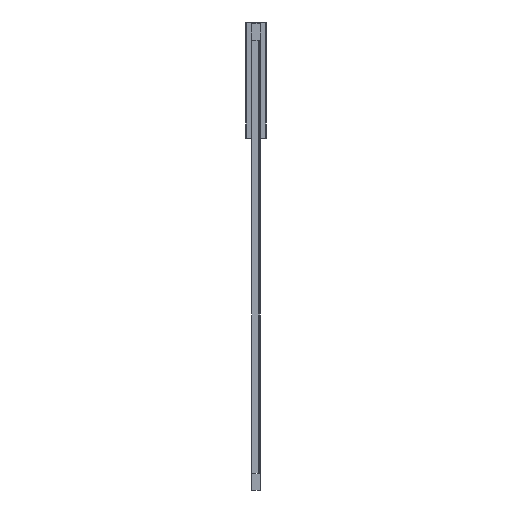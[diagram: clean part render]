
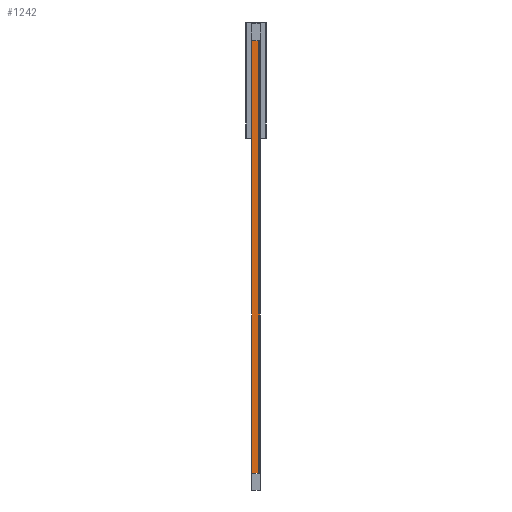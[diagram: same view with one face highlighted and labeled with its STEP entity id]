
A CAD part, front view. The second image highlights one B-rep face of the part: STEP entity #1242.
In plain terms, the highlighted planar face has unit normal (0, -1, 0).
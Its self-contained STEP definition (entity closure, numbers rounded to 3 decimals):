
#202 = LINE ( 'NONE', #4198, #2830 ) ;
#291 = DIRECTION ( 'NONE',  ( 0., 0., -1. ) ) ;
#333 = EDGE_CURVE ( 'NONE', #2431, #431, #2451, .T. ) ;
#401 = DIRECTION ( 'NONE',  ( 0., 0., 1. ) ) ;
#408 = ORIENTED_EDGE ( 'NONE', *, *, #333, .F. ) ;
#431 = VERTEX_POINT ( 'NONE', #3723 ) ;
#972 = VECTOR ( 'NONE', #2904, 1000. ) ;
#1212 = VERTEX_POINT ( 'NONE', #3556 ) ;
#1234 = ORIENTED_EDGE ( 'NONE', *, *, #2300, .T. ) ;
#1242 = ADVANCED_FACE ( 'NONE', ( #1259 ), #2023, .F. ) ;
#1259 = FACE_OUTER_BOUND ( 'NONE', #2570, .T. ) ;
#1387 = ORIENTED_EDGE ( 'NONE', *, *, #3609, .F. ) ;
#1578 = CARTESIAN_POINT ( 'NONE',  ( 20., -582., -1101.1 ) ) ;
#1595 = AXIS2_PLACEMENT_3D ( 'NONE', #3656, #2358, #401 ) ;
#1852 = LINE ( 'NONE', #2574, #972 ) ;
#1930 = ORIENTED_EDGE ( 'NONE', *, *, #3593, .T. ) ;
#2023 = PLANE ( 'NONE',  #1595 ) ;
#2052 = CARTESIAN_POINT ( 'NONE',  ( 20., -582., -41.1 ) ) ;
#2105 = VERTEX_POINT ( 'NONE', #3998 ) ;
#2300 = EDGE_CURVE ( 'NONE', #2105, #431, #2901, .T. ) ;
#2358 = DIRECTION ( 'NONE',  ( 0., 1., 0. ) ) ;
#2385 = DIRECTION ( 'NONE',  ( 0., 0., -1. ) ) ;
#2431 = VERTEX_POINT ( 'NONE', #2949 ) ;
#2451 = LINE ( 'NONE', #2052, #4093 ) ;
#2570 = EDGE_LOOP ( 'NONE', ( #1234, #408, #1387, #1930 ) ) ;
#2574 = CARTESIAN_POINT ( 'NONE',  ( 20., -582., -41.1 ) ) ;
#2830 = VECTOR ( 'NONE', #291, 1000. ) ;
#2899 = DIRECTION ( 'NONE',  ( 1., 0., 0. ) ) ;
#2901 = LINE ( 'NONE', #1578, #3649 ) ;
#2904 = DIRECTION ( 'NONE',  ( 1., 0., 0. ) ) ;
#2949 = CARTESIAN_POINT ( 'NONE',  ( 20., -582., -41.1 ) ) ;
#3556 = CARTESIAN_POINT ( 'NONE',  ( 0., -582., -41.1 ) ) ;
#3593 = EDGE_CURVE ( 'NONE', #1212, #2105, #202, .T. ) ;
#3609 = EDGE_CURVE ( 'NONE', #1212, #2431, #1852, .T. ) ;
#3649 = VECTOR ( 'NONE', #2899, 1000. ) ;
#3656 = CARTESIAN_POINT ( 'NONE',  ( 20., -582., -41.1 ) ) ;
#3723 = CARTESIAN_POINT ( 'NONE',  ( 20., -582., -1101.1 ) ) ;
#3998 = CARTESIAN_POINT ( 'NONE',  ( 0., -582., -1101.1 ) ) ;
#4093 = VECTOR ( 'NONE', #2385, 1000. ) ;
#4198 = CARTESIAN_POINT ( 'NONE',  ( 0., -582., -41.1 ) ) ;
